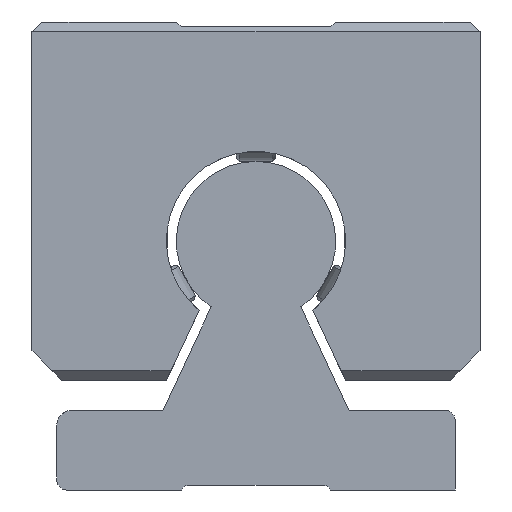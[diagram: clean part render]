
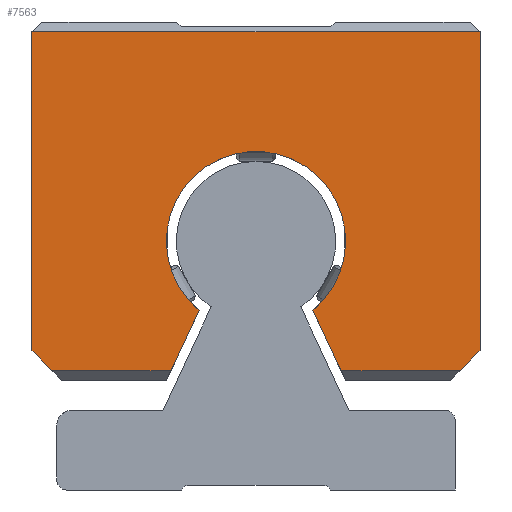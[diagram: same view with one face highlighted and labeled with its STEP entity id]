
A CAD part, left-side view. The second image highlights one B-rep face of the part: STEP entity #7563.
In plain terms, the highlighted planar face has unit normal (-1, 0, 0).
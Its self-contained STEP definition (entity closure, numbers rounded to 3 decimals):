
#6159=CARTESIAN_POINT('',(278.439,-22.5,46.));
#6160=VERTEX_POINT('',#6159);
#6169=CARTESIAN_POINT('',(278.439,-22.5,14.));
#6170=VERTEX_POINT('',#6169);
#6171=CARTESIAN_POINT('',(278.439,-22.5,46.));
#6172=DIRECTION('',(0.0,0.0,-1.0));
#6173=VECTOR('',#6172,32.0);
#6174=LINE('',#6171,#6173);
#6175=EDGE_CURVE('',#6160,#6170,#6174,.T.);
#6384=CARTESIAN_POINT('',(278.439,-5.714,18.047));
#6385=VERTEX_POINT('',#6384);
#6392=CARTESIAN_POINT('',(278.439,5.714,18.047));
#6393=VERTEX_POINT('',#6392);
#6394=CARTESIAN_POINT('',(278.439,0.,25.));
#6395=DIRECTION('',(-1.0,0.0,0.0));
#6396=DIRECTION('',(0.0,-1.0,0.0));
#6397=AXIS2_PLACEMENT_3D('',#6394,#6395,#6396);
#6398=CIRCLE('',#6397,9.0);
#6399=EDGE_CURVE('',#6385,#6393,#6398,.T.);
#7191=CARTESIAN_POINT('',(278.439,22.5,46.));
#7192=VERTEX_POINT('',#7191);
#7199=CARTESIAN_POINT('',(278.439,22.5,46.));
#7200=DIRECTION('',(0.0,-1.0,0.0));
#7201=VECTOR('',#7200,45.0);
#7202=LINE('',#7199,#7201);
#7203=EDGE_CURVE('',#7192,#6160,#7202,.T.);
#7213=CARTESIAN_POINT('',(278.439,20.5,12.));
#7214=VERTEX_POINT('',#7213);
#7231=CARTESIAN_POINT('',(278.439,8.534,12.));
#7232=VERTEX_POINT('',#7231);
#7239=CARTESIAN_POINT('',(278.439,8.534,12.));
#7240=DIRECTION('',(0.0,1.0,0.0));
#7241=VECTOR('',#7240,11.966);
#7242=LINE('',#7239,#7241);
#7243=EDGE_CURVE('',#7232,#7214,#7242,.T.);
#7302=CARTESIAN_POINT('',(278.439,22.5,14.));
#7303=VERTEX_POINT('',#7302);
#7304=CARTESIAN_POINT('',(278.439,20.5,12.));
#7305=DIRECTION('',(0.0,0.707,0.707));
#7306=VECTOR('',#7305,2.828);
#7307=LINE('',#7304,#7306);
#7308=EDGE_CURVE('',#7214,#7303,#7307,.T.);
#7489=CARTESIAN_POINT('',(278.439,-20.5,12.));
#7490=VERTEX_POINT('',#7489);
#7491=CARTESIAN_POINT('',(278.439,-22.5,14.));
#7492=DIRECTION('',(0.0,0.707,-0.707));
#7493=VECTOR('',#7492,2.828);
#7494=LINE('',#7491,#7493);
#7495=EDGE_CURVE('',#6170,#7490,#7494,.T.);
#7513=CARTESIAN_POINT('',(278.439,-8.534,12.));
#7514=VERTEX_POINT('',#7513);
#7515=CARTESIAN_POINT('',(278.439,-20.5,12.));
#7516=DIRECTION('',(0.0,1.0,0.0));
#7517=VECTOR('',#7516,11.966);
#7518=LINE('',#7515,#7517);
#7519=EDGE_CURVE('',#7490,#7514,#7518,.T.);
#7531=CARTESIAN_POINT('',(278.439,-15.25,46.75));
#7532=DIRECTION('',(1.0,0.0,0.0));
#7533=DIRECTION('',(0.0,0.0,-1.0));
#7534=AXIS2_PLACEMENT_3D('',#7531,#7532,#7533);
#7535=PLANE('',#7534);
#7536=ORIENTED_EDGE('',*,*,#7243,.F.);
#7537=CARTESIAN_POINT('',(278.439,5.714,18.047));
#7538=DIRECTION('',(0.0,0.423,-0.906));
#7539=VECTOR('',#7538,6.672);
#7540=LINE('',#7537,#7539);
#7541=EDGE_CURVE('',#6393,#7232,#7540,.T.);
#7542=ORIENTED_EDGE('',*,*,#7541,.F.);
#7543=ORIENTED_EDGE('',*,*,#6399,.F.);
#7544=CARTESIAN_POINT('',(278.439,-8.534,12.));
#7545=DIRECTION('',(0.0,0.423,0.906));
#7546=VECTOR('',#7545,6.672);
#7547=LINE('',#7544,#7546);
#7548=EDGE_CURVE('',#7514,#6385,#7547,.T.);
#7549=ORIENTED_EDGE('',*,*,#7548,.F.);
#7550=ORIENTED_EDGE('',*,*,#7519,.F.);
#7551=ORIENTED_EDGE('',*,*,#7495,.F.);
#7552=ORIENTED_EDGE('',*,*,#6175,.F.);
#7553=ORIENTED_EDGE('',*,*,#7203,.F.);
#7554=CARTESIAN_POINT('',(278.439,22.5,14.));
#7555=DIRECTION('',(0.0,0.0,1.0));
#7556=VECTOR('',#7555,32.0);
#7557=LINE('',#7554,#7556);
#7558=EDGE_CURVE('',#7303,#7192,#7557,.T.);
#7559=ORIENTED_EDGE('',*,*,#7558,.F.);
#7560=ORIENTED_EDGE('',*,*,#7308,.F.);
#7561=EDGE_LOOP('',(#7536,#7542,#7543,#7549,#7550,#7551,#7552,#7553,#7559,#7560));
#7562=FACE_OUTER_BOUND('',#7561,.T.);
#7563=ADVANCED_FACE('',(#7562),#7535,.F.);
